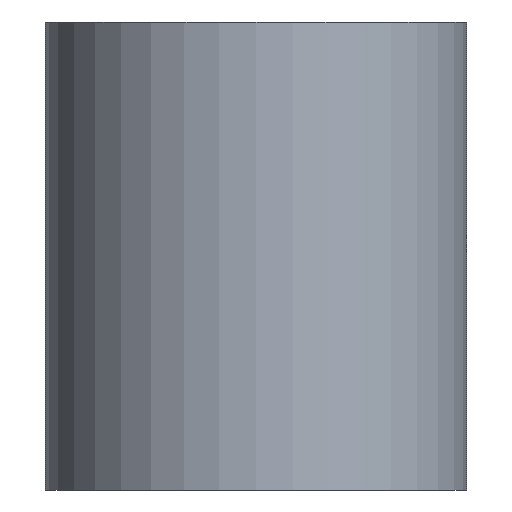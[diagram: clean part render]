
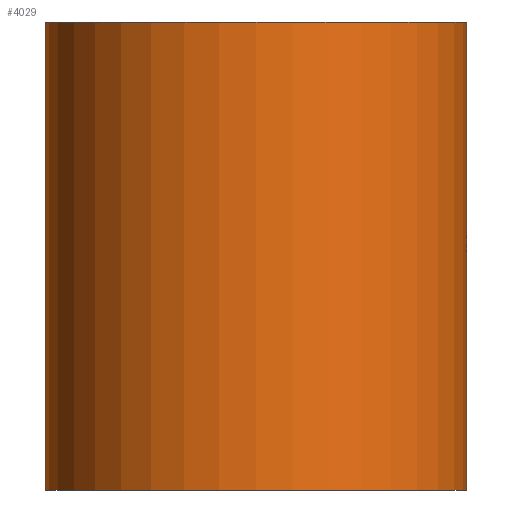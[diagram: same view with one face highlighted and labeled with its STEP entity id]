
A CAD part, left-side view. The second image highlights one B-rep face of the part: STEP entity #4029.
In plain terms, the highlighted cylindrical face has radius 3.6 mm (diameter 7.2 mm), a partial arc.
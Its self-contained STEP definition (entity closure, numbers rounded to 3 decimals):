
#339=LINE('',#7086,#587);
#341=LINE('',#7091,#589);
#587=VECTOR('',#5871,1000.);
#589=VECTOR('',#5877,1000.);
#1551=ORIENTED_EDGE('',*,*,#2245,.T.);
#1552=ORIENTED_EDGE('',*,*,#2246,.F.);
#1553=ORIENTED_EDGE('',*,*,#2188,.F.);
#1554=ORIENTED_EDGE('',*,*,#2243,.T.);
#2188=EDGE_CURVE('',#2594,#2591,#2910,.T.);
#2243=EDGE_CURVE('',#2594,#2649,#339,.T.);
#2245=EDGE_CURVE('',#2649,#2650,#2962,.T.);
#2246=EDGE_CURVE('',#2591,#2650,#341,.T.);
#2591=VERTEX_POINT('',#6924);
#2594=VERTEX_POINT('',#6929);
#2649=VERTEX_POINT('',#7085);
#2650=VERTEX_POINT('',#7090);
#2910=CIRCLE('',#4477,3.6);
#2962=CIRCLE('',#4576,3.6);
#3264=EDGE_LOOP('',(#1551,#1552,#1553,#1554));
#3602=FACE_BOUND('',#3264,.T.);
#3797=CYLINDRICAL_SURFACE('',#4575,3.6);
#4029=ADVANCED_FACE('',(#3602),#3797,.T.);
#4477=AXIS2_PLACEMENT_3D('',#6930,#5672,#5673);
#4575=AXIS2_PLACEMENT_3D('',#7088,#5873,#5874);
#4576=AXIS2_PLACEMENT_3D('',#7089,#5875,#5876);
#5672=DIRECTION('',(0.,0.,1.));
#5673=DIRECTION('',(1.,0.,0.));
#5871=DIRECTION('',(0.,0.,-1.));
#5873=DIRECTION('',(0.,0.,-1.));
#5874=DIRECTION('',(-1.,0.,0.));
#5875=DIRECTION('',(0.,0.,1.));
#5876=DIRECTION('',(1.,0.,0.));
#5877=DIRECTION('',(0.,0.,-1.));
#6924=CARTESIAN_POINT('',(-40.,-3.6,8.));
#6929=CARTESIAN_POINT('',(-40.,3.6,8.));
#6930=CARTESIAN_POINT('',(-40.,0.,8.));
#7085=CARTESIAN_POINT('',(-40.,3.6,0.));
#7086=CARTESIAN_POINT('',(-40.,3.6,8.));
#7088=CARTESIAN_POINT('',(-40.,0.,8.));
#7089=CARTESIAN_POINT('',(-40.,0.,0.));
#7090=CARTESIAN_POINT('',(-40.,-3.6,0.));
#7091=CARTESIAN_POINT('',(-40.,-3.6,8.));
